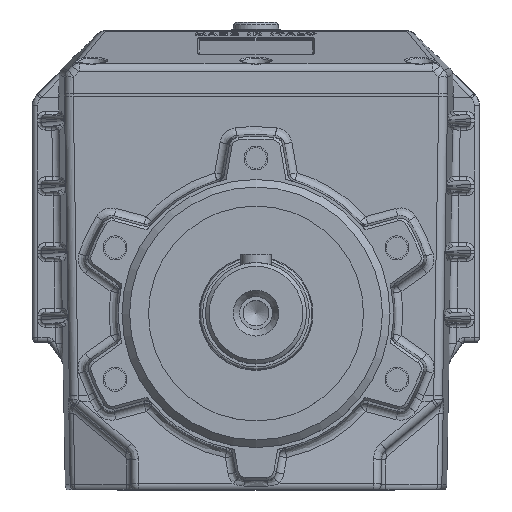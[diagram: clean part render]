
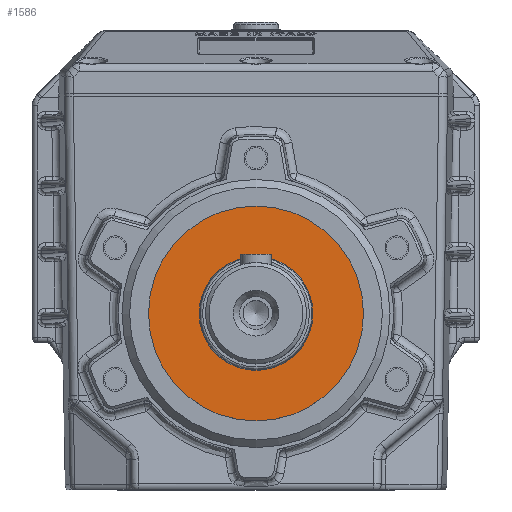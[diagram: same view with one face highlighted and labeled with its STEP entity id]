
A CAD part, top view. The second image highlights one B-rep face of the part: STEP entity #1586.
In plain terms, the highlighted planar face has unit normal (0, 0, 1).
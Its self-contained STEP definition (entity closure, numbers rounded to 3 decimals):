
#1586 = ADVANCED_FACE( '', ( #4204, #4205 ), #4206, .F. );
#4204 = FACE_BOUND( '', #9344, .T. );
#4205 = FACE_OUTER_BOUND( '', #9345, .T. );
#4206 = PLANE( '', #9346 );
#9344 = EDGE_LOOP( '', ( #20531 ) );
#9345 = EDGE_LOOP( '', ( #20532 ) );
#9346 = AXIS2_PLACEMENT_3D( '', #20533, #20534, #20535 );
#20531 = ORIENTED_EDGE( '', *, *, #29383, .T. );
#20532 = ORIENTED_EDGE( '', *, *, #29384, .F. );
#20533 = CARTESIAN_POINT( '', ( 0., 0., 12. ) );
#20534 = DIRECTION( '', ( 0., 0., -1. ) );
#20535 = DIRECTION( '', ( 1., 0., 0. ) );
#29383 = EDGE_CURVE( '', #33827, #33827, #33828, .T. );
#29384 = EDGE_CURVE( '', #33829, #33829, #33830, .T. );
#33827 = VERTEX_POINT( '', #41478 );
#33828 = CIRCLE( '', #41479, 22.5 );
#33829 = VERTEX_POINT( '', #41480 );
#33830 = CIRCLE( '', #41481, 42.5 );
#41478 = CARTESIAN_POINT( '', ( 0., 22.5, 12. ) );
#41479 = AXIS2_PLACEMENT_3D( '', #52502, #52503, #52504 );
#41480 = CARTESIAN_POINT( '', ( 0., 42.5, 12. ) );
#41481 = AXIS2_PLACEMENT_3D( '', #52505, #52506, #52507 );
#52502 = CARTESIAN_POINT( '', ( 0., 0., 12. ) );
#52503 = DIRECTION( '', ( 0., 0., -1. ) );
#52504 = DIRECTION( '', ( 0., 1., 0. ) );
#52505 = CARTESIAN_POINT( '', ( 0., 0., 12. ) );
#52506 = DIRECTION( '', ( 0., 0., -1. ) );
#52507 = DIRECTION( '', ( 0., 1., 0. ) );
